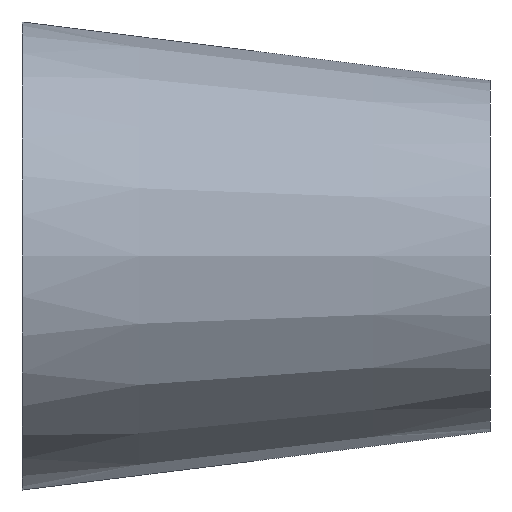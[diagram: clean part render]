
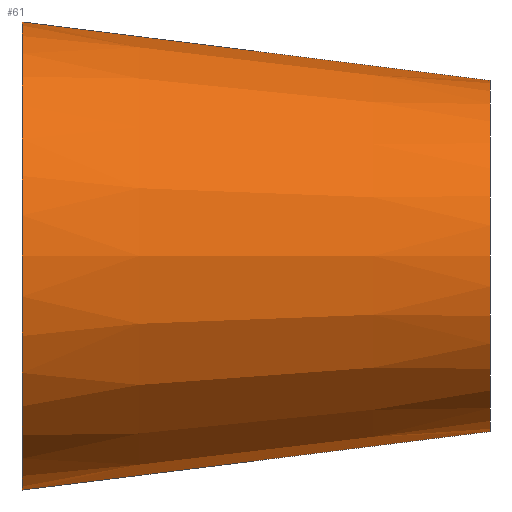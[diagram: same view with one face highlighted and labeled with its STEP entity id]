
A CAD part, front view. The second image highlights one B-rep face of the part: STEP entity #61.
In plain terms, the highlighted conical face has half-angle 7.125 degrees and reference radius 9.525 mm.
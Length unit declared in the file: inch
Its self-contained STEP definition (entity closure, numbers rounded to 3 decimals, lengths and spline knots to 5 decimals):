
#19 = VERTEX_POINT ( 'NONE', #51 ) ;
#22 = CARTESIAN_POINT ( 'NONE',  ( 1., 0., 0. ) ) ;
#23 = EDGE_CURVE ( 'NONE', #29, #210, #115, .T. ) ;
#29 = VERTEX_POINT ( 'NONE', #97 ) ;
#34 = DIRECTION ( 'NONE',  ( -0.992, 0., 0.124 ) ) ;
#39 = DIRECTION ( 'NONE',  ( -1., 0., 0. ) ) ;
#41 = DIRECTION ( 'NONE',  ( -1., 0., 0. ) ) ;
#51 = CARTESIAN_POINT ( 'NONE',  ( 0., 0., -0.5 ) ) ;
#53 = ORIENTED_EDGE ( 'NONE', *, *, #23, .T. ) ;
#58 = DIRECTION ( 'NONE',  ( -0.992, 0., -0.124 ) ) ;
#60 = AXIS2_PLACEMENT_3D ( 'NONE', #64, #39, #170 ) ;
#61 = ADVANCED_FACE ( 'NONE', ( #163 ), #174, .T. ) ;
#64 = CARTESIAN_POINT ( 'NONE',  ( 1., 0., 0. ) ) ;
#67 = EDGE_CURVE ( 'NONE', #116, #19, #74, .T. ) ;
#68 = ORIENTED_EDGE ( 'NONE', *, *, #168, .F. ) ;
#70 = VECTOR ( 'NONE', #34, 39.37008 ) ;
#74 = LINE ( 'NONE', #100, #215 ) ;
#75 = DIRECTION ( 'NONE',  ( 0., 0., 1. ) ) ;
#97 = CARTESIAN_POINT ( 'NONE',  ( 1., 0., 0.375 ) ) ;
#98 = ORIENTED_EDGE ( 'NONE', *, *, #67, .F. ) ;
#100 = CARTESIAN_POINT ( 'NONE',  ( 1., 0., -0.375 ) ) ;
#105 = CARTESIAN_POINT ( 'NONE',  ( 0., 0., 0. ) ) ;
#115 = LINE ( 'NONE', #182, #70 ) ;
#116 = VERTEX_POINT ( 'NONE', #128 ) ;
#128 = CARTESIAN_POINT ( 'NONE',  ( 1., 0., -0.375 ) ) ;
#137 = CARTESIAN_POINT ( 'NONE',  ( 0., 0., 0.5 ) ) ;
#146 = AXIS2_PLACEMENT_3D ( 'NONE', #22, #149, #75 ) ;
#149 = DIRECTION ( 'NONE',  ( -1., 0., 0. ) ) ;
#158 = EDGE_CURVE ( 'NONE', #116, #29, #222, .T. ) ;
#162 = ORIENTED_EDGE ( 'NONE', *, *, #158, .T. ) ;
#163 = FACE_OUTER_BOUND ( 'NONE', #197, .T. ) ;
#168 = EDGE_CURVE ( 'NONE', #19, #210, #186, .T. ) ;
#170 = DIRECTION ( 'NONE',  ( 0., 0., 1. ) ) ;
#174 = CONICAL_SURFACE ( 'NONE', #146, 0.375, 0.124 ) ;
#182 = CARTESIAN_POINT ( 'NONE',  ( 1., 0., 0.375 ) ) ;
#186 = CIRCLE ( 'NONE', #219, 0.5 ) ;
#187 = DIRECTION ( 'NONE',  ( 0., 0., 1. ) ) ;
#197 = EDGE_LOOP ( 'NONE', ( #98, #162, #53, #68 ) ) ;
#210 = VERTEX_POINT ( 'NONE', #137 ) ;
#215 = VECTOR ( 'NONE', #58, 39.37008 ) ;
#219 = AXIS2_PLACEMENT_3D ( 'NONE', #105, #41, #187 ) ;
#222 = CIRCLE ( 'NONE', #60, 0.375 ) ;
